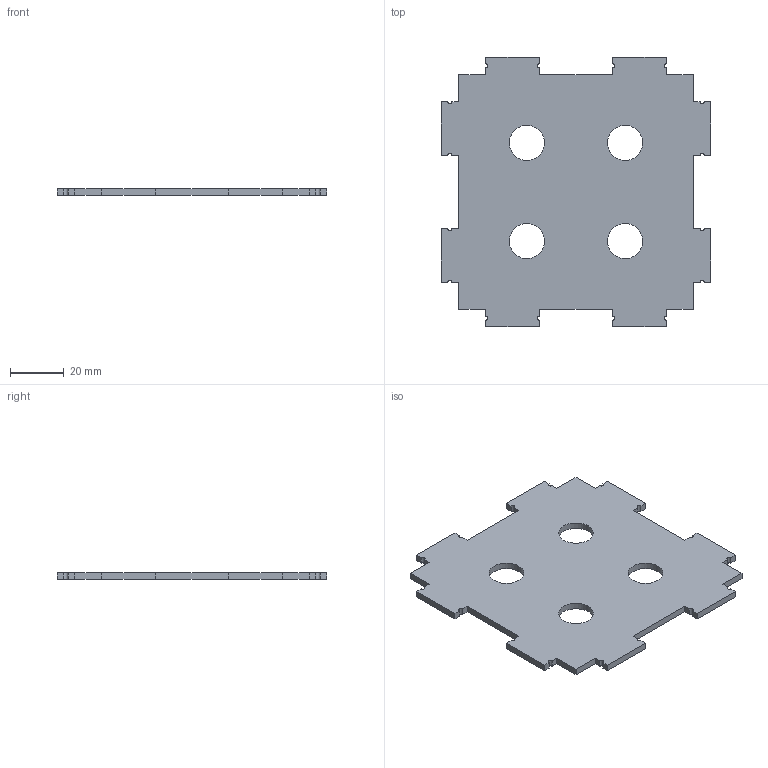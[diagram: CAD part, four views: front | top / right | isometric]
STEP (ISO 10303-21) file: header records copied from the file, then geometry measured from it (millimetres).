
FILE_DESCRIPTION(/* description */ (''),/* implementation_level */ '2;1');
FILE_NAME(/* name */ 'C:\Users\valen\Desktop\Estandar CubeSat - Programa AVES-20220531T050024Z-001\Estandar CubeSat - Programa AVES\3D - MODELS\STEP\4.Lateral izquierda.stp',/* time_stamp */ '2022-05-31T02:23:14-05:00',/* author */ ('valen'),/* organization */ (''),/* preprocessor_version */ 'ST-DEVELOPER v18.1',/* originating_system */ 'Autodesk Inventor 2022',/* authorisation */ '');
FILE_SCHEMA (('AUTOMOTIVE_DESIGN { 1 0 10303 214 3 1 1 }'));
Length unit declared in the file: millimetre
Products named in the file (1): Tubos supCara 1 (4 unidades)
Bounding box: 100 x 100 x 2.5 mm (x, y, z)
Volume: 20155 mm3; surface area: 17698.9 mm2
Topology: 1 solids, 1 shells, 74 faces, 216 edges, 144 vertices
Faces by surface type: plane 54, cylinder 20
Full cylindrical faces by diameter (mm): 13 x4
Entity records: 2508 total; most frequent: CARTESIAN_POINT 436, ORIENTED_EDGE 432, DIRECTION 406, EDGE_CURVE 216, LINE 176, VECTOR 176, VERTEX_POINT 144, AXIS2_PLACEMENT_3D 115
